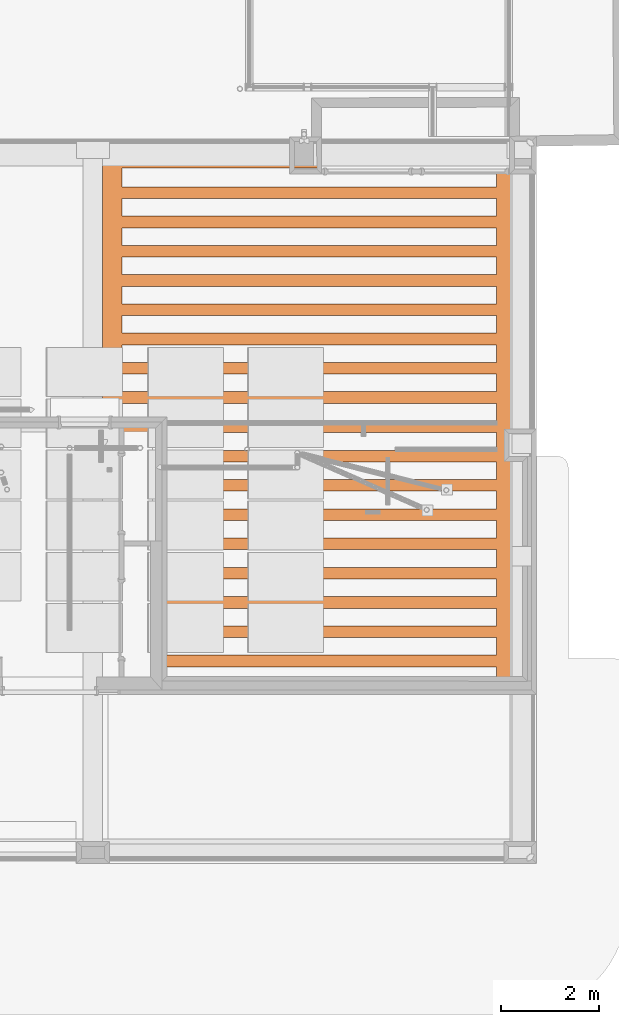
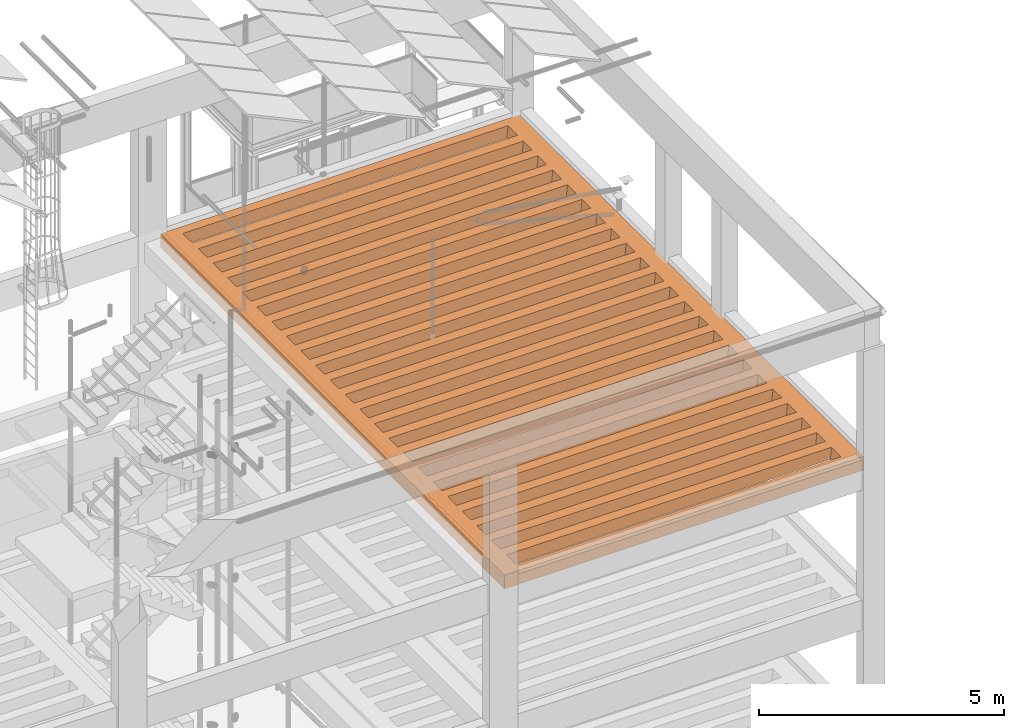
# One storey, part 108 of 108: 1 proxy.
"""IFC2X3 building model written with IfcOpenShell, lengths in metres."""

from ifc_helpers import new_model, entity, si_unit, converted_unit, derived_unit, money_unit, direction, frame, origin_with_axes, place, context, subcontext, project, spatial, faceted_brep, element, save


model = new_model("IFC2X3")

# Units and contexts
model_context = context("Model", 3, precision=1e-05, world=origin_with_axes(), true_north=direction((0.0, 1.0)))
body_context = subcontext(model_context, "Body", "Model", "MODEL_VIEW", scale=1.0)
ifc_project = project(units=[si_unit("LENGTHUNIT", "METRE"), si_unit("AREAUNIT", "SQUARE_METRE"), si_unit("VOLUMEUNIT", "CUBIC_METRE"), si_unit("ABSORBEDDOSEUNIT", "GRAY"), si_unit("AMOUNTOFSUBSTANCEUNIT", "MOLE"), si_unit("DOSEEQUIVALENTUNIT", "SIEVERT"), si_unit("ELECTRICCAPACITANCEUNIT", "FARAD"), si_unit("ELECTRICCHARGEUNIT", "COULOMB"), si_unit("ELECTRICCONDUCTANCEUNIT", "SIEMENS"), si_unit("ELECTRICCURRENTUNIT", "AMPERE"), si_unit("ELECTRICRESISTANCEUNIT", "OHM"), si_unit("ELECTRICVOLTAGEUNIT", "VOLT"), si_unit("ENERGYUNIT", "JOULE"), si_unit("FORCEUNIT", "NEWTON"), si_unit("FREQUENCYUNIT", "HERTZ"), si_unit("ILLUMINANCEUNIT", "LUX"), si_unit("INDUCTANCEUNIT", "HENRY"), si_unit("LUMINOUSFLUXUNIT", "LUMEN"), si_unit("LUMINOUSINTENSITYUNIT", "CANDELA"), si_unit("MAGNETICFLUXDENSITYUNIT", "TESLA"), si_unit("MAGNETICFLUXUNIT", "WEBER"), si_unit("MASSUNIT", "GRAM"), converted_unit("PLANEANGLEUNIT", "degree", entity("IfcReal", 0.0174532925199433), si_unit("PLANEANGLEUNIT", "RADIAN"), dimensions=[0, 0, 0, 0, 0, 0, 0]), si_unit("POWERUNIT", "WATT"), si_unit("PRESSUREUNIT", "PASCAL"), si_unit("RADIOACTIVITYUNIT", "BECQUEREL"), si_unit("SOLIDANGLEUNIT", "STERADIAN"), si_unit("THERMODYNAMICTEMPERATUREUNIT", "KELVIN"), si_unit("TIMEUNIT", "SECOND"), derived_unit("ACCELERATIONUNIT", [(si_unit("LENGTHUNIT", "METRE"), 1), (si_unit("TIMEUNIT", "SECOND"), -2)]), derived_unit("ANGULARVELOCITYUNIT", [(converted_unit("PLANEANGLEUNIT", "degree", entity("IfcReal", 0.0174532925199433), si_unit("PLANEANGLEUNIT", "RADIAN"), dimensions=[0, 0, 0, 0, 0, 0, 0]), 1), (si_unit("TIMEUNIT", "SECOND"), -1)]), derived_unit("CURVATUREUNIT", [(converted_unit("PLANEANGLEUNIT", "degree", entity("IfcReal", 0.0174532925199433), si_unit("PLANEANGLEUNIT", "RADIAN"), dimensions=[0, 0, 0, 0, 0, 0, 0]), 1), (si_unit("LENGTHUNIT", "METRE"), -1)]), derived_unit("DYNAMICVISCOSITYUNIT", [(si_unit("PRESSUREUNIT", "PASCAL"), 1), (si_unit("TIMEUNIT", "SECOND"), 1)]), derived_unit("HEATFLUXDENSITYUNIT", [(si_unit("POWERUNIT", "WATT"), 1), (si_unit("LENGTHUNIT", "METRE"), -2)]), derived_unit("HEATINGVALUEUNIT", [(si_unit("ENERGYUNIT", "JOULE"), 1), (si_unit("MASSUNIT", "GRAM"), -1)]), derived_unit("INTEGERCOUNTRATEUNIT", [(si_unit("TIMEUNIT", "SECOND"), -1)]), derived_unit("IONCONCENTRATIONUNIT", [(si_unit("MASSUNIT", "GRAM"), 1), (si_unit("VOLUMEUNIT", "CUBIC_METRE"), -1)]), derived_unit("ISOTHERMALMOISTURECAPACITYUNIT", [(si_unit("VOLUMEUNIT", "CUBIC_METRE"), 1), (si_unit("MASSUNIT", "GRAM"), -1)]), derived_unit("KINEMATICVISCOSITYUNIT", [(si_unit("AREAUNIT", "SQUARE_METRE"), 1), (si_unit("TIMEUNIT", "SECOND"), -1)]), derived_unit("LINEARFORCEUNIT", [(si_unit("FORCEUNIT", "NEWTON"), 1), (si_unit("LENGTHUNIT", "METRE"), -1)]), derived_unit("LINEARMOMENTUNIT", [(si_unit("FORCEUNIT", "NEWTON"), 1), (si_unit("LENGTHUNIT", "METRE"), -1)]), derived_unit("LINEARSTIFFNESSUNIT", [(si_unit("FORCEUNIT", "NEWTON"), 1), (si_unit("LENGTHUNIT", "METRE"), -1)]), derived_unit("LINEARVELOCITYUNIT", [(si_unit("LENGTHUNIT", "METRE"), 1), (si_unit("TIMEUNIT", "SECOND"), -1)]), derived_unit("LUMINOUSINTENSITYDISTRIBUTIONUNIT", [(si_unit("LUMINOUSINTENSITYUNIT", "CANDELA"), 1), (si_unit("LUMINOUSFLUXUNIT", "LUMEN"), -1)]), derived_unit("MASSDENSITYUNIT", [(si_unit("MASSUNIT", "GRAM"), 1), (si_unit("VOLUMEUNIT", "CUBIC_METRE"), -1)]), derived_unit("MASSFLOWRATEUNIT", [(si_unit("MASSUNIT", "GRAM"), 1), (si_unit("TIMEUNIT", "SECOND"), -1)]), derived_unit("MASSPERLENGTHUNIT", [(si_unit("MASSUNIT", "GRAM"), 1), (si_unit("LENGTHUNIT", "METRE"), -1)]), derived_unit("MODULUSOFELASTICITYUNIT", [(si_unit("FORCEUNIT", "NEWTON"), 1), (si_unit("AREAUNIT", "SQUARE_METRE"), -1)]), derived_unit("MODULUSOFLINEARSUBGRADEREACTIONUNIT", [(si_unit("FORCEUNIT", "NEWTON"), 1), (si_unit("LENGTHUNIT", "METRE"), -2)]), derived_unit("MODULUSOFROTATIONALSUBGRADEREACTIONUNIT", [(si_unit("FORCEUNIT", "NEWTON"), 1), (si_unit("LENGTHUNIT", "METRE"), 1)]), derived_unit("MODULUSOFSUBGRADEREACTIONUNIT", [(si_unit("FORCEUNIT", "NEWTON"), 1), (si_unit("VOLUMEUNIT", "CUBIC_METRE"), -1)]), derived_unit("MOISTUREDIFFUSIVITYUNIT", [(si_unit("VOLUMEUNIT", "CUBIC_METRE"), 1), (si_unit("TIMEUNIT", "SECOND"), -1)]), derived_unit("MOLECULARWEIGHTUNIT", [(si_unit("MASSUNIT", "GRAM"), 1), (si_unit("AMOUNTOFSUBSTANCEUNIT", "MOLE"), -1)]), derived_unit("PLANARFORCEUNIT", [(si_unit("FORCEUNIT", "NEWTON"), 1), (si_unit("LENGTHUNIT", "METRE"), -2)]), derived_unit("ROTATIONALFREQUENCYUNIT", [(si_unit("TIMEUNIT", "SECOND"), -1)]), derived_unit("ROTATIONALMASSUNIT", [(si_unit("MASSUNIT", "GRAM"), 1), (si_unit("LENGTHUNIT", "METRE"), 2)]), derived_unit("ROTATIONALSTIFFNESSUNIT", [(si_unit("FORCEUNIT", "NEWTON"), 1), (si_unit("LENGTHUNIT", "METRE"), 1), (converted_unit("PLANEANGLEUNIT", "degree", entity("IfcReal", 0.0174532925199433), si_unit("PLANEANGLEUNIT", "RADIAN"), dimensions=[0, 0, 0, 0, 0, 0, 0]), -1)]), derived_unit("SECTIONAREAINTEGRALUNIT", [(si_unit("LENGTHUNIT", "METRE"), 5)]), derived_unit("SECTIONMODULUSUNIT", [(si_unit("LENGTHUNIT", "METRE"), 3)]), derived_unit("SHEARMODULUSUNIT", [(si_unit("FORCEUNIT", "NEWTON"), 1), (si_unit("AREAUNIT", "SQUARE_METRE"), -1)]), derived_unit("SOUNDPOWERUNIT", [(si_unit("ENERGYUNIT", "JOULE"), 1), (si_unit("TIMEUNIT", "SECOND"), -1)]), derived_unit("SPECIFICHEATCAPACITYUNIT", [(si_unit("FORCEUNIT", "NEWTON"), 1), (si_unit("MASSUNIT", "GRAM"), -1), (si_unit("THERMODYNAMICTEMPERATUREUNIT", "KELVIN"), -1)]), derived_unit("TEMPERATUREGRADIENTUNIT", [(si_unit("THERMODYNAMICTEMPERATUREUNIT", "KELVIN"), 1), (si_unit("LENGTHUNIT", "METRE"), -1)]), derived_unit("THERMALADMITTANCEUNIT", [(si_unit("POWERUNIT", "WATT"), 1), (si_unit("AREAUNIT", "SQUARE_METRE"), -1), (si_unit("THERMODYNAMICTEMPERATUREUNIT", "KELVIN"), -1)]), derived_unit("THERMALCONDUCTANCEUNIT", [(si_unit("POWERUNIT", "WATT"), 1), (si_unit("LENGTHUNIT", "METRE"), -1), (si_unit("THERMODYNAMICTEMPERATUREUNIT", "KELVIN"), -1)]), derived_unit("THERMALEXPANSIONCOEFFICIENTUNIT", [(si_unit("THERMODYNAMICTEMPERATUREUNIT", "KELVIN"), -1)]), derived_unit("THERMALRESISTANCEUNIT", [(si_unit("AREAUNIT", "SQUARE_METRE"), 1), (si_unit("POWERUNIT", "WATT"), -1)]), derived_unit("THERMALTRANSMITTANCEUNIT", [(si_unit("POWERUNIT", "WATT"), 1), (si_unit("AREAUNIT", "SQUARE_METRE"), -1), (si_unit("THERMODYNAMICTEMPERATUREUNIT", "KELVIN"), -1)]), derived_unit("TORQUEUNIT", [(si_unit("FORCEUNIT", "NEWTON"), 1), (si_unit("LENGTHUNIT", "METRE"), 1)]), derived_unit("VAPORPERMEABILITYUNIT", [(si_unit("MASSUNIT", "GRAM"), 1), (si_unit("TIMEUNIT", "SECOND"), -1)]), derived_unit("VOLUMETRICFLOWRATEUNIT", [(si_unit("VOLUMEUNIT", "CUBIC_METRE"), 1), (si_unit("TIMEUNIT", "SECOND"), -1)]), derived_unit("WARPINGCONSTANTUNIT", [(si_unit("LENGTHUNIT", "METRE"), 6)]), derived_unit("WARPINGMOMENTUNIT", [(si_unit("FORCEUNIT", "NEWTON"), 1), (si_unit("LENGTHUNIT", "METRE"), 2)]), money_unit("GBP")], contexts=[model_context])

# Site, building, storey
site_placement = place(None, origin_with_axes())
site = spatial("IfcSite", under=ifc_project, at=site_placement, Name="Site", CompositionType="ELEMENT")
building_placement = place(site_placement, origin_with_axes())
building = spatial("IfcBuilding", under=site, at=building_placement, Name="Building01", CompositionType="ELEMENT")
storey_placement = place(building_placement, origin_with_axes())
storey = spatial("IfcBuildingStorey", under=building, at=storey_placement, Name="GF", CompositionType="ELEMENT", Elevation=0.0)

# Proxy
proxy_placement = place(storey_placement, frame((22.322501, 7.45, 11.79), z_axis=(0.0, 0.0, 1.0), x_axis=(1.0, 0.0, 0.0)))
element("IfcBuildingElementProxy", 1, at=proxy_placement, inside=storey, context=body_context, shape_type="Brep", body=[
    faceted_brep([(-3.839638, -7.03, -0.17), (3.8375, -7.03, -0.17), (3.8375, -7.03, 0.17), (-3.839638, -7.03, 0.17), (-3.839638, -6.858571, -0.17), (3.8375, -6.858571, -0.17), (-3.839638, -6.81, 0.17), (3.8375, -6.81, 0.17)], [[[0, 1, 2, 3]], [[4, 5, 1, 0]], [[6, 7, 5, 4]], [[3, 2, 7, 6]], [[1, 5, 7, 2]], [[3, 6, 4, 0]]]),
    faceted_brep([(-3.839638, 1.428572, -0.17), (3.8375, 1.428572, -0.17), (3.8375, 1.38, 0.17), (-3.839638, 1.38, 0.17), (-3.839638, 1.571429, -0.17), (3.8375, 1.571429, -0.17), (-3.839638, 1.62, 0.17), (3.8375, 1.62, 0.17)], [[[0, 1, 2, 3]], [[4, 5, 1, 0]], [[6, 7, 5, 4]], [[3, 2, 7, 6]], [[1, 5, 7, 2]], [[3, 6, 4, 0]]]),
    faceted_brep([(-3.839638, 0.828572, -0.17), (3.8375, 0.828572, -0.17), (3.8375, 0.78, 0.17), (-3.839638, 0.78, 0.17), (-3.839638, 0.971429, -0.17), (3.8375, 0.971429, -0.17), (-3.839638, 1.02, 0.17), (3.8375, 1.02, 0.17)], [[[0, 1, 2, 3]], [[4, 5, 1, 0]], [[6, 7, 5, 4]], [[3, 2, 7, 6]], [[1, 5, 7, 2]], [[3, 6, 4, 0]]]),
    faceted_brep([(-3.839638, -0.371428, -0.17), (3.8375, -0.371428, -0.17), (3.8375, -0.42, 0.17), (-3.839638, -0.42, 0.17), (-3.839638, -0.228571, -0.17), (3.8375, -0.228571, -0.17), (-3.839638, -0.18, 0.17), (3.8375, -0.18, 0.17)], [[[0, 1, 2, 3]], [[4, 5, 1, 0]], [[6, 7, 5, 4]], [[3, 2, 7, 6]], [[1, 5, 7, 2]], [[3, 6, 4, 0]]]),
    faceted_brep([(-3.839638, -0.971428, -0.17), (3.8375, -0.971428, -0.17), (3.8375, -1.02, 0.17), (-3.839638, -1.02, 0.17), (-3.839638, -0.828571, -0.17), (3.8375, -0.828571, -0.17), (-3.839638, -0.78, 0.17), (3.8375, -0.78, 0.17)], [[[0, 1, 2, 3]], [[4, 5, 1, 0]], [[6, 7, 5, 4]], [[3, 2, 7, 6]], [[1, 5, 7, 2]], [[3, 6, 4, 0]]]),
    faceted_brep([(-3.839638, 0.228572, -0.17), (3.8375, 0.228572, -0.17), (3.8375, 0.18, 0.17), (-3.839638, 0.18, 0.17), (-3.839638, 0.371429, -0.17), (3.8375, 0.371429, -0.17), (-3.839638, 0.42, 0.17), (3.8375, 0.42, 0.17)], [[[0, 1, 2, 3]], [[4, 5, 1, 0]], [[6, 7, 5, 4]], [[3, 2, 7, 6]], [[1, 5, 7, 2]], [[3, 6, 4, 0]]]),
    faceted_brep([(-3.839638, -2.171428, -0.17), (3.8375, -2.171428, -0.17), (3.8375, -2.22, 0.17), (-3.839638, -2.22, 0.17), (-3.839638, -2.028571, -0.17), (3.8375, -2.028571, -0.17), (-3.839638, -1.98, 0.17), (3.8375, -1.98, 0.17)], [[[0, 1, 2, 3]], [[4, 5, 1, 0]], [[6, 7, 5, 4]], [[3, 2, 7, 6]], [[1, 5, 7, 2]], [[3, 6, 4, 0]]]),
    faceted_brep([(-3.839638, -2.771428, -0.17), (3.8375, -2.771428, -0.17), (3.8375, -2.82, 0.17), (-3.839638, -2.82, 0.17), (-3.839638, -2.628571, -0.17), (3.8375, -2.628571, -0.17), (-3.839638, -2.58, 0.17), (3.8375, -2.58, 0.17)], [[[0, 1, 2, 3]], [[4, 5, 1, 0]], [[6, 7, 5, 4]], [[3, 2, 7, 6]], [[1, 5, 7, 2]], [[3, 6, 4, 0]]]),
    faceted_brep([(-3.839638, -1.571428, -0.17), (3.8375, -1.571428, -0.17), (3.8375, -1.62, 0.17), (-3.839638, -1.62, 0.17), (-3.839638, -1.428571, -0.17), (3.8375, -1.428571, -0.17), (-3.839638, -1.38, 0.17), (3.8375, -1.38, 0.17)], [[[0, 1, 2, 3]], [[4, 5, 1, 0]], [[6, 7, 5, 4]], [[3, 2, 7, 6]], [[1, 5, 7, 2]], [[3, 6, 4, 0]]]),
    faceted_brep([(-3.839638, -3.971428, -0.17), (3.8375, -3.971428, -0.17), (3.8375, -4.02, 0.17), (-3.839638, -4.02, 0.17), (-3.839638, -3.828571, -0.17), (3.8375, -3.828571, -0.17), (-3.839638, -3.78, 0.17), (3.8375, -3.78, 0.17)], [[[0, 1, 2, 3]], [[4, 5, 1, 0]], [[6, 7, 5, 4]], [[3, 2, 7, 6]], [[1, 5, 7, 2]], [[3, 6, 4, 0]]]),
    faceted_brep([(-3.839638, -4.571428, -0.17), (3.8375, -4.571428, -0.17), (3.8375, -4.62, 0.17), (-3.839638, -4.62, 0.17), (-3.839638, -4.428571, -0.17), (3.8375, -4.428571, -0.17), (-3.839638, -4.38, 0.17), (3.8375, -4.38, 0.17)], [[[0, 1, 2, 3]], [[4, 5, 1, 0]], [[6, 7, 5, 4]], [[3, 2, 7, 6]], [[1, 5, 7, 2]], [[3, 6, 4, 0]]]),
    faceted_brep([(-3.839638, -3.371428, -0.17), (3.8375, -3.371428, -0.17), (3.8375, -3.42, 0.17), (-3.839638, -3.42, 0.17), (-3.839638, -3.228571, -0.17), (3.8375, -3.228571, -0.17), (-3.839638, -3.18, 0.17), (3.8375, -3.18, 0.17)], [[[0, 1, 2, 3]], [[4, 5, 1, 0]], [[6, 7, 5, 4]], [[3, 2, 7, 6]], [[1, 5, 7, 2]], [[3, 6, 4, 0]]]),
    faceted_brep([(-3.839638, -5.771428, -0.17), (3.8375, -5.771428, -0.17), (3.8375, -5.82, 0.17), (-3.839638, -5.82, 0.17), (-3.839638, -5.628571, -0.17), (3.8375, -5.628571, -0.17), (-3.839638, -5.58, 0.17), (3.8375, -5.58, 0.17)], [[[0, 1, 2, 3]], [[4, 5, 1, 0]], [[6, 7, 5, 4]], [[3, 2, 7, 6]], [[1, 5, 7, 2]], [[3, 6, 4, 0]]]),
    faceted_brep([(-3.839638, -6.371428, -0.17), (3.8375, -6.371428, -0.17), (3.8375, -6.42, 0.17), (-3.839638, -6.42, 0.17), (-3.839638, -6.228571, -0.17), (3.8375, -6.228571, -0.17), (-3.839638, -6.18, 0.17), (3.8375, -6.18, 0.17)], [[[0, 1, 2, 3]], [[4, 5, 1, 0]], [[6, 7, 5, 4]], [[3, 2, 7, 6]], [[1, 5, 7, 2]], [[3, 6, 4, 0]]]),
    faceted_brep([(-3.839638, -5.171428, -0.17), (3.8375, -5.171428, -0.17), (3.8375, -5.22, 0.17), (-3.839638, -5.22, 0.17), (-3.839638, -5.028571, -0.17), (3.8375, -5.028571, -0.17), (-3.839638, -4.98, 0.17), (3.8375, -4.98, 0.17)], [[[0, 1, 2, 3]], [[4, 5, 1, 0]], [[6, 7, 5, 4]], [[3, 2, 7, 6]], [[1, 5, 7, 2]], [[3, 6, 4, 0]]]),
    faceted_brep([(-3.839638, 7.03, 0.17), (3.8375, 7.03, 0.17), (3.8375, 7.03, -0.17), (-3.839638, 7.03, -0.17), (-3.839638, 6.81, 0.17), (3.8375, 6.81, 0.17), (-3.839638, 6.858572, -0.17), (3.8375, 6.858572, -0.17)], [[[0, 1, 2, 3]], [[4, 5, 1, 0]], [[6, 7, 5, 4]], [[3, 2, 7, 6]], [[1, 5, 7, 2]], [[3, 6, 4, 0]]]),
    faceted_brep([(-3.839638, 5.028572, -0.17), (3.8375, 5.028572, -0.17), (3.8375, 4.98, 0.17), (-3.839638, 4.98, 0.17), (-3.839638, 5.171429, -0.17), (3.8375, 5.171429, -0.17), (-3.839638, 5.22, 0.17), (3.8375, 5.22, 0.17)], [[[0, 1, 2, 3]], [[4, 5, 1, 0]], [[6, 7, 5, 4]], [[3, 2, 7, 6]], [[1, 5, 7, 2]], [[3, 6, 4, 0]]]),
    faceted_brep([(-3.839638, 4.428572, -0.17), (3.8375, 4.428572, -0.17), (3.8375, 4.38, 0.17), (-3.839638, 4.38, 0.17), (-3.839638, 4.571429, -0.17), (3.8375, 4.571429, -0.17), (-3.839638, 4.62, 0.17), (3.8375, 4.62, 0.17)], [[[0, 1, 2, 3]], [[4, 5, 1, 0]], [[6, 7, 5, 4]], [[3, 2, 7, 6]], [[1, 5, 7, 2]], [[3, 6, 4, 0]]]),
    faceted_brep([(-3.839638, 6.228572, -0.17), (3.8375, 6.228572, -0.17), (3.8375, 6.18, 0.17), (-3.839638, 6.18, 0.17), (-3.839638, 6.371429, -0.17), (3.8375, 6.371429, -0.17), (-3.839638, 6.42, 0.17), (3.8375, 6.42, 0.17)], [[[0, 1, 2, 3]], [[4, 5, 1, 0]], [[6, 7, 5, 4]], [[3, 2, 7, 6]], [[1, 5, 7, 2]], [[3, 6, 4, 0]]]),
    faceted_brep([(-3.839638, 5.628572, -0.17), (3.8375, 5.628572, -0.17), (3.8375, 5.58, 0.17), (-3.839638, 5.58, 0.17), (-3.839638, 5.771429, -0.17), (3.8375, 5.771429, -0.17), (-3.839638, 5.82, 0.17), (3.8375, 5.82, 0.17)], [[[0, 1, 2, 3]], [[4, 5, 1, 0]], [[6, 7, 5, 4]], [[3, 2, 7, 6]], [[1, 5, 7, 2]], [[3, 6, 4, 0]]]),
    faceted_brep([(-3.839638, 3.228572, -0.17), (3.8375, 3.228572, -0.17), (3.8375, 3.18, 0.17), (-3.839638, 3.18, 0.17), (-3.839638, 3.371429, -0.17), (3.8375, 3.371429, -0.17), (-3.839638, 3.42, 0.17), (3.8375, 3.42, 0.17)], [[[0, 1, 2, 3]], [[4, 5, 1, 0]], [[6, 7, 5, 4]], [[3, 2, 7, 6]], [[1, 5, 7, 2]], [[3, 6, 4, 0]]]),
    faceted_brep([(-3.839638, 2.628572, -0.17), (3.8375, 2.628572, -0.17), (3.8375, 2.58, 0.17), (-3.839638, 2.58, 0.17), (-3.839638, 2.771429, -0.17), (3.8375, 2.771429, -0.17), (-3.839638, 2.82, 0.17), (3.8375, 2.82, 0.17)], [[[0, 1, 2, 3]], [[4, 5, 1, 0]], [[6, 7, 5, 4]], [[3, 2, 7, 6]], [[1, 5, 7, 2]], [[3, 6, 4, 0]]]),
    faceted_brep([(-3.839638, 3.828572, -0.17), (3.8375, 3.828572, -0.17), (3.8375, 3.78, 0.17), (-3.839638, 3.78, 0.17), (-3.839638, 3.971429, -0.17), (3.8375, 3.971429, -0.17), (-3.839638, 4.02, 0.17), (3.8375, 4.02, 0.17)], [[[0, 1, 2, 3]], [[4, 5, 1, 0]], [[6, 7, 5, 4]], [[3, 2, 7, 6]], [[1, 5, 7, 2]], [[3, 6, 4, 0]]]),
    faceted_brep([(-3.839638, 2.028572, -0.17), (3.8375, 2.028572, -0.17), (3.8375, 1.98, 0.17), (-3.839638, 1.98, 0.17), (-3.839638, 2.171429, -0.17), (3.8375, 2.171429, -0.17), (-3.839638, 2.22, 0.17), (3.8375, 2.22, 0.17)], [[[0, 1, 2, 3]], [[4, 5, 1, 0]], [[6, 7, 5, 4]], [[3, 2, 7, 6]], [[1, 5, 7, 2]], [[3, 6, 4, 0]]]),
    faceted_brep([(4.2375, 7.03, -0.17), (4.2375, -7.03, -0.17), (3.8375, -7.03, -0.17), (3.8375, 7.03, -0.17), (4.2375, 7.03, 0.17), (4.2375, -7.03, 0.17), (3.8375, 7.03, 0.17), (3.8375, -7.03, 0.17)], [[[0, 1, 2, 3]], [[4, 5, 1, 0]], [[6, 7, 5, 4]], [[3, 2, 7, 6]], [[1, 5, 7, 2]], [[3, 6, 4, 0]]]),
    faceted_brep([(-3.837501, 7.03, -0.17), (-3.837501, -7.03, -0.17), (-4.237501, -7.03, -0.17), (-4.237501, 7.03, -0.17), (-3.837501, 7.03, 0.17), (-3.837501, -7.03, 0.17), (-4.237501, 7.03, 0.17), (-4.237501, -7.03, 0.17)], [[[0, 1, 2, 3]], [[4, 5, 1, 0]], [[6, 7, 5, 4]], [[3, 2, 7, 6]], [[1, 5, 7, 2]], [[3, 6, 4, 0]]]),
])

save(model, "model.ifc")
